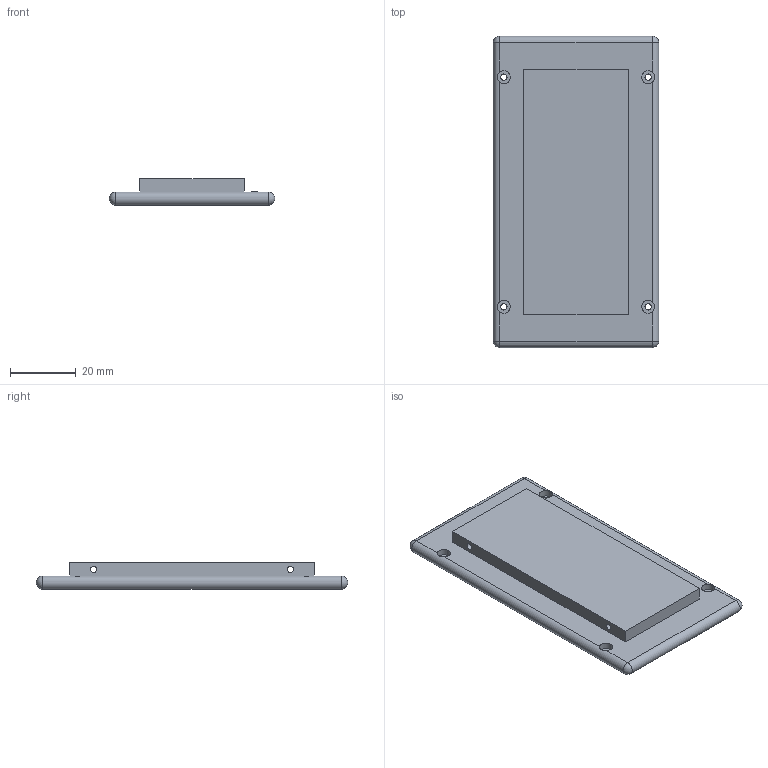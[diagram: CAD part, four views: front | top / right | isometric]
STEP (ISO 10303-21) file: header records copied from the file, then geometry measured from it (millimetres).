
FILE_DESCRIPTION(/* description */ (''),/* implementation_level */ '2;1');
FILE_NAME(/* name */ 'computer unit adapter male v3.step',/* time_stamp */ '2025-07-16T17:41:27+08:00',/* author */ (''),/* organization */ (''),/* preprocessor_version */ 'ST-DEVELOPER v20.1',/* originating_system */ 'Autodesk Translation Framework v14.10.0.0',/* authorisation */ '');
FILE_SCHEMA (('AUTOMOTIVE_DESIGN { 1 0 10303 214 3 1 1 }'));
Length unit declared in the file: millimetre
Products named in the file (1): computer unit adapter male
Bounding box: 50.5 x 95 x 8 mm (x, y, z)
Volume: 27920.2 mm3; surface area: 11587.1 mm2
Topology: 1 solids, 1 shells, 29 faces, 74 edges, 46 vertices
Faces by surface type: cylinder 14, plane 11, sphere 4
Full cylindrical faces by diameter (mm): 1.9 x2, 1.95 x4, 3.95 x4
Entity records: 971 total; most frequent: CARTESIAN_POINT 204, DIRECTION 158, ORIENTED_EDGE 144, EDGE_CURVE 72, AXIS2_PLACEMENT_3D 62, VERTEX_POINT 46, EDGE_LOOP 42, LINE 34
